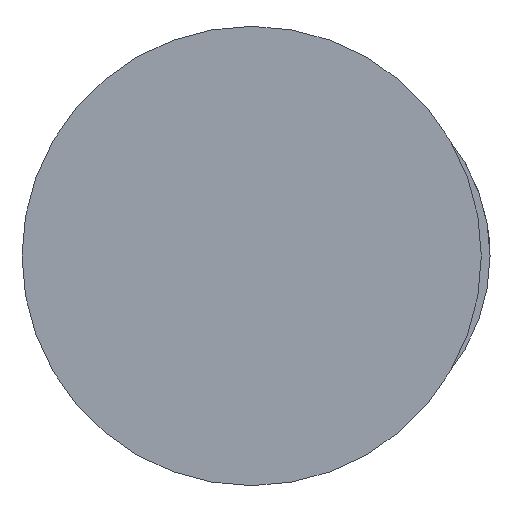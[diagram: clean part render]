
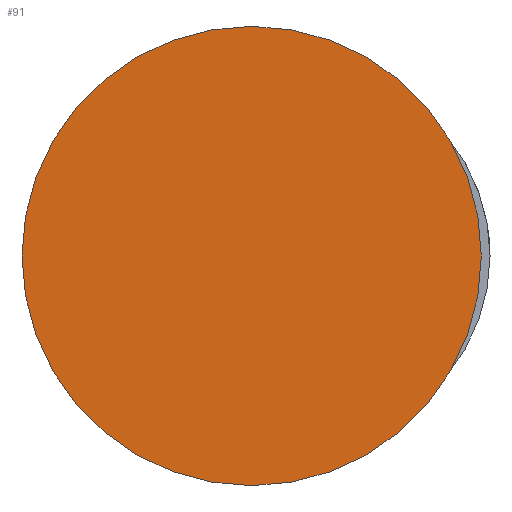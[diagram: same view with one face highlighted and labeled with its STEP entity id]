
A CAD part, left-side view. The second image highlights one B-rep face of the part: STEP entity #91.
In plain terms, the highlighted planar face has unit normal (-1, 0, 0).
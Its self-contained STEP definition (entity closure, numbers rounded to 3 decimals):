
#52=CARTESIAN_POINT('Axis2P3D Location',(0.,0.,0.)) ;
#57=CARTESIAN_POINT('Axis2P3D Location',(0.,0.,0.)) ;
#61=CARTESIAN_POINT('Vertex',(0.,0.,-26.5)) ;
#63=CARTESIAN_POINT('Vertex',(0.,26.5,0.)) ;
#66=CARTESIAN_POINT('Axis2P3D Location',(0.,0.,0.)) ;
#70=CARTESIAN_POINT('Vertex',(0.,-26.5,0.)) ;
#73=CARTESIAN_POINT('Axis2P3D Location',(0.,0.,0.)) ;
#77=CARTESIAN_POINT('Vertex',(0.,0.,26.5)) ;
#80=CARTESIAN_POINT('Axis2P3D Location',(0.,0.,0.)) ;
#53=DIRECTION('Axis2P3D Direction',(1.,0.,-0.)) ;
#54=DIRECTION('Axis2P3D XDirection',(-0.,0.,-1.)) ;
#58=DIRECTION('Axis2P3D Direction',(1.,0.,-0.)) ;
#67=DIRECTION('Axis2P3D Direction',(1.,0.,-0.)) ;
#74=DIRECTION('Axis2P3D Direction',(1.,0.,-0.)) ;
#81=DIRECTION('Axis2P3D Direction',(1.,0.,-0.)) ;
#55=AXIS2_PLACEMENT_3D('Plane Axis2P3D',#52,#53,#54) ;
#59=AXIS2_PLACEMENT_3D('Circle Axis2P3D',#57,#58,$) ;
#68=AXIS2_PLACEMENT_3D('Circle Axis2P3D',#66,#67,$) ;
#75=AXIS2_PLACEMENT_3D('Circle Axis2P3D',#73,#74,$) ;
#82=AXIS2_PLACEMENT_3D('Circle Axis2P3D',#80,#81,$) ;
#86=ORIENTED_EDGE('',*,*,#65,.F.) ;
#87=ORIENTED_EDGE('',*,*,#72,.F.) ;
#88=ORIENTED_EDGE('',*,*,#79,.F.) ;
#89=ORIENTED_EDGE('',*,*,#84,.F.) ;
#91=ADVANCED_FACE('395PSF-3',(#90),#56,.F.) ;
#60=CIRCLE('generated circle',#59,26.5) ;
#69=CIRCLE('generated circle',#68,26.5) ;
#76=CIRCLE('generated circle',#75,26.5) ;
#83=CIRCLE('generated circle',#82,26.5) ;
#65=EDGE_CURVE('',#62,#64,#60,.T.) ;
#72=EDGE_CURVE('',#71,#62,#69,.T.) ;
#79=EDGE_CURVE('',#78,#71,#76,.T.) ;
#84=EDGE_CURVE('',#64,#78,#83,.T.) ;
#85=EDGE_LOOP('',(#86,#87,#88,#89)) ;
#90=FACE_OUTER_BOUND('',#85,.T.) ;
#56=PLANE('Plane',#55) ;
#62=VERTEX_POINT('',#61) ;
#64=VERTEX_POINT('',#63) ;
#71=VERTEX_POINT('',#70) ;
#78=VERTEX_POINT('',#77) ;
